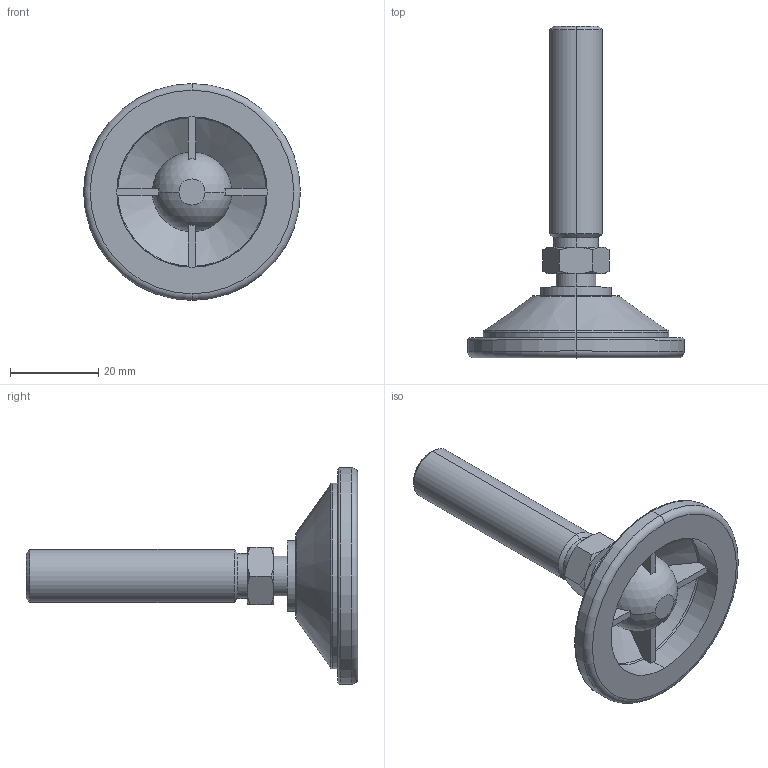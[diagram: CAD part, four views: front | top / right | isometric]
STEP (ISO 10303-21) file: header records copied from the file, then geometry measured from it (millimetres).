
FILE_DESCRIPTION (( 'STEP AP203' ), '1' );
FILE_NAME ('3472.W121.step', '2009-10-21T16:59:48', ( 'Wixroyd' ), ( 'Wixroyd' ), 'SwSTEP 2.0', 'SolidWorks 2009', '' );
FILE_SCHEMA (( 'CONFIG_CONTROL_DESIGN' ));
Length unit declared in the file: millimetre
Products named in the file (3): Part1_3472W121; Part2_3472W121; 3472.W121
Assembly tree (2 placements, depth 2):
  3472.W121
    Part2_3472W121
    Part1_3472W121
Bounding box: 49 x 75 x 49 mm (x, y, z)
Volume: 17346.1 mm3; surface area: 9973.3 mm2
Topology: 2 solids, 2 shells, 95 faces, 231 edges, 145 vertices
Faces by surface type: plane 39, cone 22, cylinder 16, torus 12, sphere 6
Entity records: 3197 total; most frequent: CARTESIAN_POINT 672, DIRECTION 514, ORIENTED_EDGE 446, AXIS2_PLACEMENT_3D 231, EDGE_CURVE 223, VERTEX_POINT 141, CIRCLE 131, EDGE_LOOP 104
